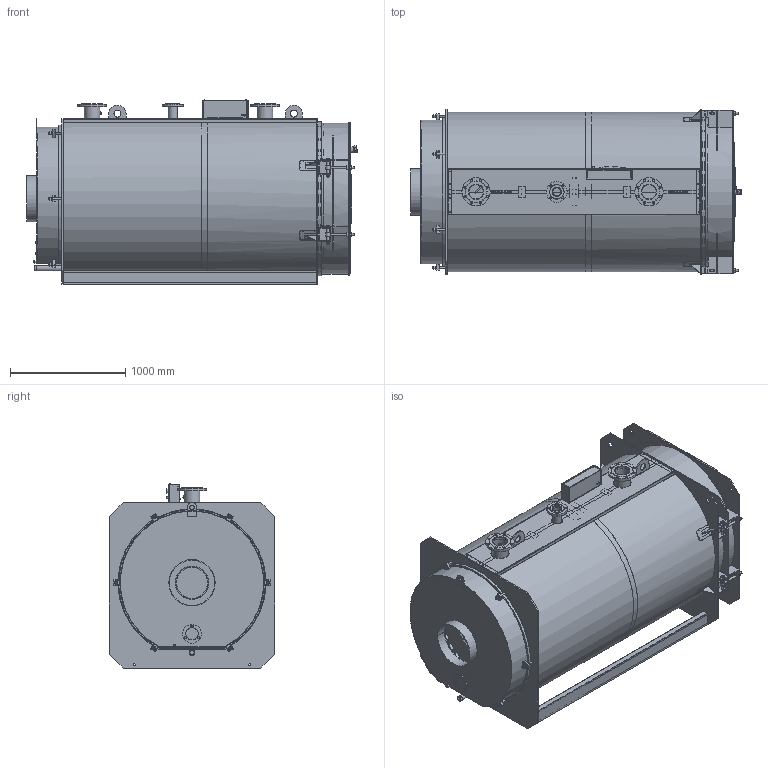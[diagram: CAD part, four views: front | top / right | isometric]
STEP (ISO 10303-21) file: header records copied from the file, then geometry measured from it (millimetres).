
FILE_DESCRIPTION(('STEP AP242'), '1');
FILE_NAME('TITAN Prom 4 (1200-1300 êÂò)', '', ('UNSPECIFIED'), ('UNSPECIFIED'), 'ASCON STEP Converter 1.6', 'ASCON Math Kernel', '');
FILE_SCHEMA(('AP242_MANAGED_MODEL_BASED_3D_ENGINEERING_MIM_LF { 1 0 10303 442 1 1 4 }'));
Length unit declared in the file: millimetre
Bounding box: 2869.04 x 1435 x 1598.16 mm (x, y, z)
Volume: 296826056.2 mm3; surface area: 44537171.5 mm2
Topology: 66 solids, 66 shells, 3369 faces, 8208 edges, 5224 vertices
Faces by surface type: plane 2010, cylinder 935, cone 298, bspline 90, torus 21, extrusion 9, sphere 6
Full cylindrical faces by diameter (mm): 2 x4, 2.8 x27, 3 x1, 3.5 x8, 3.6 x4, 4 x12, 4.1 x2, 4.5 x12, 4.8 x1, 5 x31, 6 x5, 7 x2, 7.6 x1, 8 x3, 9 x2, 9.25 x4, 9.728 x1, 10 x6, 10.5 x1, 11 x1, 12 x10, 13 x7, 13.835 x10, 14 x4, 14.5 x1, 15 x3, 15.7 x1, 16 x13, 17 x15, 18 x22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
Entity records: 167965 total; most frequent: CARTESIAN_POINT 63540, DIRECTION 15361, ORIENTED_EDGE 14822, EDGE_CURVE 7411, AXIS2_PLACEMENT_3D 5552, VERTEX_POINT 5216, EDGE_LOOP 5036, VECTOR 4257
